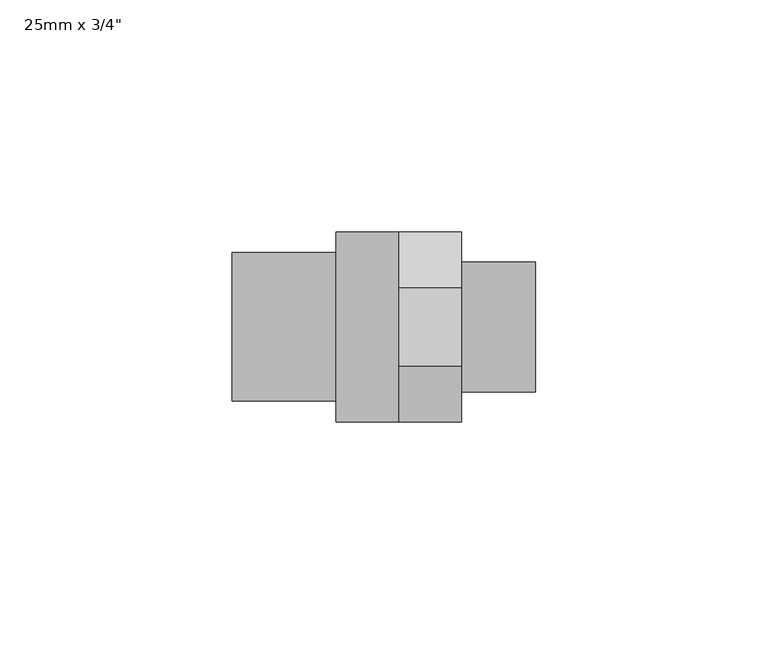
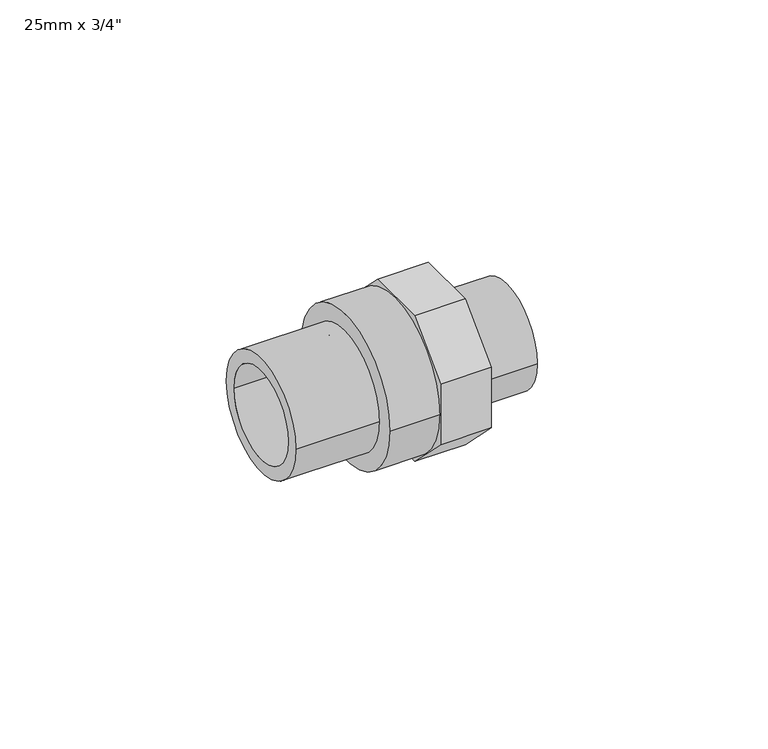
"""IFC4 building model written with IfcOpenShell, lengths in millimetres: pipe fitting geometry."""

from ifc_helpers import new_model, si_unit, point, frame, origin, origin_2d, place, context, project, spatial, polyline, circle_curve, trimmed, segment, composite_curve, outline, extrude, source, transform, mapped, element, save


def pipe_fitting_1b9ebeb7(model_context):
    return source(origin(), model_context, "Body", "SweptSolid", [
        extrude(outline(composite_curve([segment(trimmed(circle_curve(origin_2d(), 14.0), [point((-14.0, 0.0))], [point((14.0, 0.0))], False, "CARTESIAN"), True, "CONTINUOUS"), segment(trimmed(circle_curve(origin_2d(), 14.0), [point((14.0, 0.0))], [point((-14.0, 0.0))], False, "CARTESIAN"), True, "CONTINUOUS")], self_intersect=False), holes=[composite_curve([segment(trimmed(circle_curve(origin_2d(), 10.5), [point((-10.5, 0.0))], [point((10.5, 0.0))], True, "CARTESIAN"), True, "CONTINUOUS"), segment(trimmed(circle_curve(origin_2d(), 10.5), [point((10.5, 0.0))], [point((-10.5, 0.0))], True, "CARTESIAN"), True, "CONTINUOUS")], self_intersect=False)]), frame((16.75, 0.0, 0.0), z_axis=(1.0, 0.0, 0.0), x_axis=(0.0, 1.0, 0.0)), (0.0, 0.0, 1.0), 16.0),
        extrude(outline(polyline([(8.491378, 20.5), (20.5, 8.491378), (20.5, -8.491378), (8.491378, -20.5), (-8.491378, -20.5), (-20.5, -8.491378), (-20.5, 8.491378), (-8.491378, 20.5), (8.491378, 20.5)]), holes=[composite_curve([segment(trimmed(circle_curve(origin_2d(), 10.5), [point((-10.5, 0.0))], [point((10.5, 0.0))], True, "CARTESIAN"), True, "CONTINUOUS"), segment(trimmed(circle_curve(origin_2d(), 10.5), [point((10.5, 0.0))], [point((-10.5, 0.0))], True, "CARTESIAN"), True, "CONTINUOUS")], self_intersect=False)]), frame((3.25, 0.0, 0.0), z_axis=(1.0, 0.0, 0.0), x_axis=(0.0, 1.0, 0.0)), (0.0, 0.0, 1.0), 13.5),
        extrude(outline(composite_curve([segment(trimmed(circle_curve(origin_2d(), 20.5), [point((-20.5, 0.0))], [point((20.5, 0.0))], False, "CARTESIAN"), True, "CONTINUOUS"), segment(trimmed(circle_curve(origin_2d(), 20.5), [point((20.5, 0.0))], [point((-20.5, 0.0))], False, "CARTESIAN"), True, "CONTINUOUS")], self_intersect=False), holes=[composite_curve([segment(trimmed(circle_curve(origin_2d(), 10.5), [point((-10.5, 0.0))], [point((10.5, 0.0))], True, "CARTESIAN"), True, "CONTINUOUS"), segment(trimmed(circle_curve(origin_2d(), 10.5), [point((10.5, 0.0))], [point((-10.5, 0.0))], True, "CARTESIAN"), True, "CONTINUOUS")], self_intersect=False)]), frame((-10.25, 0.0, 0.0), z_axis=(1.0, 0.0, 0.0), x_axis=(0.0, 1.0, 0.0)), (0.0, 0.0, 1.0), 13.5),
        extrude(outline(composite_curve([segment(trimmed(circle_curve(origin_2d(), 16.0), [point((-16.0, 0.0))], [point((16.0, 0.0))], False, "CARTESIAN"), True, "CONTINUOUS"), segment(trimmed(circle_curve(origin_2d(), 16.0), [point((16.0, 0.0))], [point((-16.0, 0.0))], False, "CARTESIAN"), True, "CONTINUOUS")], self_intersect=False), holes=[composite_curve([segment(trimmed(circle_curve(origin_2d(), 12.5), [point((-12.5, 0.0))], [point((12.5, 0.0))], True, "CARTESIAN"), True, "CONTINUOUS"), segment(trimmed(circle_curve(origin_2d(), 12.5), [point((12.5, 0.0))], [point((-12.5, 0.0))], True, "CARTESIAN"), True, "CONTINUOUS")], self_intersect=False)]), frame((-32.75, 0.0, 0.0), z_axis=(1.0, 0.0, 0.0), x_axis=(0.0, 1.0, 0.0)), (0.0, 0.0, 1.0), 22.5),
    ])


if __name__ == "__main__":
    model = new_model("IFC4")
    model_context = context("Model", 3, world=origin())
    ifc_project = project(units=[si_unit("LENGTHUNIT", "METRE", prefix="MILLI")], contexts=[model_context])
    site = spatial("IfcSite", under=ifc_project)
    building = spatial("IfcBuilding", under=site)
    placement = place(None, origin())
    pipe_fitting_shape = pipe_fitting_1b9ebeb7(model_context)
    element("IfcPipeFitting", 1, ObjectType="PipeFitting_HTA_CPVC_AdaptorNipplesA : 25mm x 3/4\"", at=placement, inside=building, context=model_context, shape_type="MappedRepresentation", body=[
        mapped(pipe_fitting_shape, transform((0.0, 0.0, 0.0), x_axis=(1.0, 0.0, 0.0), y_axis=(0.0, 1.0, 0.0), z_axis=(0.0, 0.0, 1.0))),
    ])
    save(model, "model.ifc")
